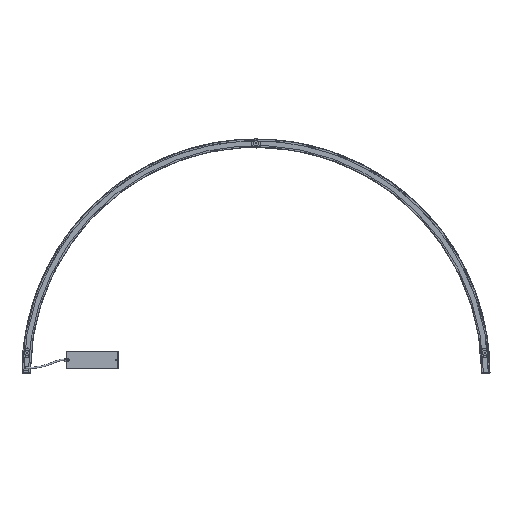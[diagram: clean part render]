
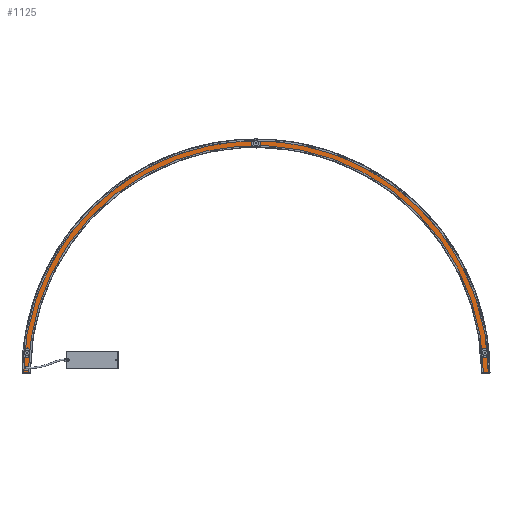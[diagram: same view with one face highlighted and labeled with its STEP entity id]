
A CAD part, top view. The second image highlights one B-rep face of the part: STEP entity #1125.
In plain terms, the highlighted planar face has unit normal (0, 0, 1).
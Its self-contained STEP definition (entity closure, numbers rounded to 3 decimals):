
#285=FACE_BOUND('',#3763,.T.);
#1125=ADVANCED_FACE('',(#2427,#285),#19370,.T.);
#2427=FACE_OUTER_BOUND('',#3762,.T.);
#3762=EDGE_LOOP('',(#7986,#7987,#7988,#7989));
#3763=EDGE_LOOP('',(#7990,#7991));
#7986=ORIENTED_EDGE('',*,*,#12703,.T.);
#7987=ORIENTED_EDGE('',*,*,#12706,.T.);
#7988=ORIENTED_EDGE('',*,*,#12702,.T.);
#7989=ORIENTED_EDGE('',*,*,#12698,.F.);
#7990=ORIENTED_EDGE('',*,*,#12791,.T.);
#7991=ORIENTED_EDGE('',*,*,#12167,.T.);
#12167=EDGE_CURVE('',#17982,#17981,#16196,.T.);
#12698=EDGE_CURVE('',#18314,#18315,#16519,.T.);
#12702=EDGE_CURVE('',#18317,#18315,#15020,.T.);
#12703=EDGE_CURVE('',#18314,#18316,#15021,.T.);
#12706=EDGE_CURVE('',#18316,#18317,#16522,.T.);
#12791=EDGE_CURVE('',#17981,#17982,#16581,.T.);
#15020=B_SPLINE_CURVE_WITH_KNOTS('',1,(#46408,#46409),.UNSPECIFIED.,.F.,
 .F.,(2,2),(0.,30.2),.UNSPECIFIED.);
#15021=B_SPLINE_CURVE_WITH_KNOTS('',1,(#46410,#46411),.UNSPECIFIED.,.F.,
 .F.,(2,2),(0.,30.2),.UNSPECIFIED.);
#16196=(
BOUNDED_CURVE()
B_SPLINE_CURVE(2,(#44815,#44816,#44817,#44818,#44819),.UNSPECIFIED.,.F.,
 .F.)
B_SPLINE_CURVE_WITH_KNOTS((3,2,3),(-15.708,-7.854,
0.),.UNSPECIFIED.)
CURVE()
GEOMETRIC_REPRESENTATION_ITEM()
RATIONAL_B_SPLINE_CURVE((1.,0.707,1.,0.707,1.))
REPRESENTATION_ITEM('')
);
#16519=(
BOUNDED_CURVE()
B_SPLINE_CURVE(2,(#46394,#46395,#46396,#46397,#46398),.UNSPECIFIED.,.F.,
 .F.)
B_SPLINE_CURVE_WITH_KNOTS((3,2,3),(0.,1480.711,2961.422),
 .UNSPECIFIED.)
CURVE()
GEOMETRIC_REPRESENTATION_ITEM()
RATIONAL_B_SPLINE_CURVE((1.,0.707,1.,0.707,1.))
REPRESENTATION_ITEM('')
);
#16522=(
BOUNDED_CURVE()
B_SPLINE_CURVE(2,(#46419,#46420,#46421,#46422,#46423),.UNSPECIFIED.,.F.,
 .F.)
B_SPLINE_CURVE_WITH_KNOTS((3,2,3),(-3056.298,-1528.149,
0.),.UNSPECIFIED.)
CURVE()
GEOMETRIC_REPRESENTATION_ITEM()
RATIONAL_B_SPLINE_CURVE((1.,0.707,1.,0.707,1.))
REPRESENTATION_ITEM('')
);
#16581=(
BOUNDED_CURVE()
B_SPLINE_CURVE(2,(#46682,#46683,#46684,#46685,#46686),.UNSPECIFIED.,.F.,
 .F.)
B_SPLINE_CURVE_WITH_KNOTS((3,2,3),(-15.708,-7.854,
0.),.UNSPECIFIED.)
CURVE()
GEOMETRIC_REPRESENTATION_ITEM()
RATIONAL_B_SPLINE_CURVE((1.,0.707,1.,0.707,1.))
REPRESENTATION_ITEM('')
);
#17981=VERTEX_POINT('',#44082);
#17982=VERTEX_POINT('',#44083);
#18314=VERTEX_POINT('',#44415);
#18315=VERTEX_POINT('',#44416);
#18316=VERTEX_POINT('',#44417);
#18317=VERTEX_POINT('',#44418);
#19370=PLANE('',#20560);
#20560=AXIS2_PLACEMENT_3D('',#42554,#21097,$);
#21097=DIRECTION('',(0.,0.,1.));
#42554=CARTESIAN_POINT('',(-1167.42,571.936,66.701));
#44082=CARTESIAN_POINT('',(-957.54,-473.142,66.701));
#44083=CARTESIAN_POINT('',(-957.54,-483.142,66.701));
#44415=CARTESIAN_POINT('',(942.65,-498.199,66.701));
#44416=CARTESIAN_POINT('',(-942.65,-498.199,66.701));
#44417=CARTESIAN_POINT('',(972.85,-498.199,66.701));
#44418=CARTESIAN_POINT('',(-972.85,-498.199,66.701));
#44815=CARTESIAN_POINT('',(-957.54,-483.142,66.701));
#44816=CARTESIAN_POINT('',(-962.54,-483.142,66.701));
#44817=CARTESIAN_POINT('',(-962.54,-478.142,66.701));
#44818=CARTESIAN_POINT('',(-962.54,-473.142,66.701));
#44819=CARTESIAN_POINT('',(-957.54,-473.142,66.701));
#46394=CARTESIAN_POINT('',(942.65,-498.199,66.701));
#46395=CARTESIAN_POINT('',(942.65,444.451,66.701));
#46396=CARTESIAN_POINT('',(0.,444.451,66.701));
#46397=CARTESIAN_POINT('',(-942.65,444.451,66.701));
#46398=CARTESIAN_POINT('',(-942.65,-498.199,66.701));
#46408=CARTESIAN_POINT('',(-972.85,-498.199,66.701));
#46409=CARTESIAN_POINT('',(-942.65,-498.199,66.701));
#46410=CARTESIAN_POINT('',(942.65,-498.199,66.701));
#46411=CARTESIAN_POINT('',(972.85,-498.199,66.701));
#46419=CARTESIAN_POINT('',(972.85,-498.199,66.701));
#46420=CARTESIAN_POINT('',(972.85,474.651,66.701));
#46421=CARTESIAN_POINT('',(0.,474.651,66.701));
#46422=CARTESIAN_POINT('',(-972.85,474.651,66.701));
#46423=CARTESIAN_POINT('',(-972.85,-498.199,66.701));
#46682=CARTESIAN_POINT('',(-957.54,-473.142,66.701));
#46683=CARTESIAN_POINT('',(-952.54,-473.142,66.701));
#46684=CARTESIAN_POINT('',(-952.54,-478.142,66.701));
#46685=CARTESIAN_POINT('',(-952.54,-483.142,66.701));
#46686=CARTESIAN_POINT('',(-957.54,-483.142,66.701));
